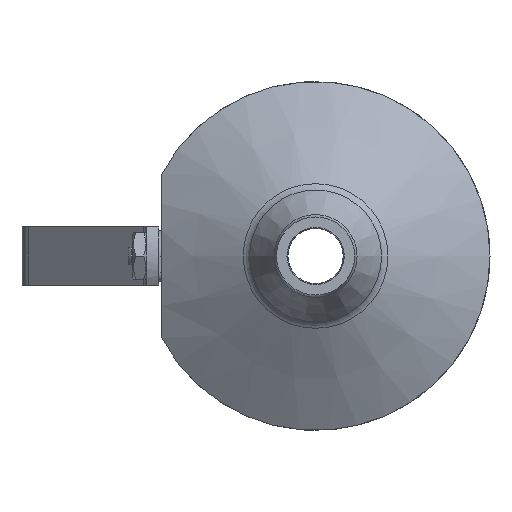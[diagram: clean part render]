
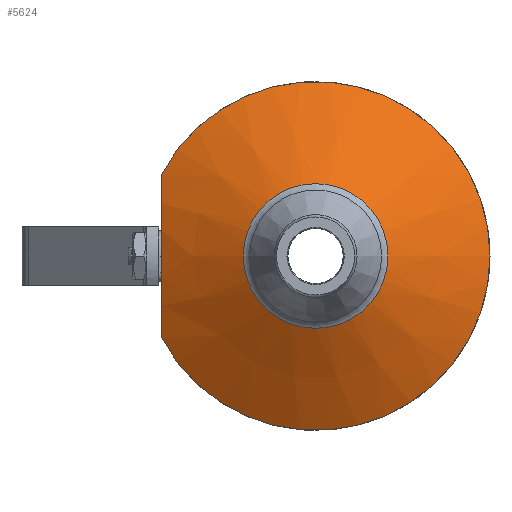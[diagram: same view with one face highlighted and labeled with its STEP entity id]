
A CAD part, left-side view. The second image highlights one B-rep face of the part: STEP entity #5624.
In plain terms, the highlighted conical face has half-angle 60 degrees and reference radius 42.446 mm.
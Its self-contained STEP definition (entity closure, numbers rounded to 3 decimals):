
#5250=CARTESIAN_POINT('',(-25.5,53.,28.125));
#5251=VERTEX_POINT('',#5250);
#5252=CARTESIAN_POINT('',(-25.5,53.,-28.125));
#5253=VERTEX_POINT('',#5252);
#5254=CARTESIAN_POINT('',(-25.5,53.,28.125));
#5255=CARTESIAN_POINT('',(-33.111,53.,0.0));
#5256=CARTESIAN_POINT('',(-25.5,53.,-28.125));
#5264=(BOUNDED_CURVE()B_SPLINE_CURVE(2,(#5254,#5255,#5256),.UNSPECIFIED.,.F.,.U.)B_SPLINE_CURVE_WITH_KNOTS((3,3),(0.0,5.683),.UNSPECIFIED.)CURVE()GEOMETRIC_REPRESENTATION_ITEM()RATIONAL_B_SPLINE_CURVE((1.0,1.132,1.0))REPRESENTATION_ITEM(''));
#5265=EDGE_CURVE('',#5251,#5253,#5264,.T.);
#5591=CARTESIAN_POINT('',(-45.769,-24.892,0.0));
#5592=VERTEX_POINT('',#5591);
#5593=CARTESIAN_POINT('',(-45.769,0.0,0.0));
#5594=DIRECTION('',(1.0,0.0,0.0));
#5595=DIRECTION('',(0.0,-1.0,0.0));
#5596=AXIS2_PLACEMENT_3D('',#5593,#5594,#5595);
#5597=CIRCLE('',#5596,24.892);
#5598=EDGE_CURVE('',#5592,#5592,#5597,.T.);
#5606=CARTESIAN_POINT('',(-35.635,0.0,0.0));
#5607=DIRECTION('',(1.0,0.0,0.0));
#5608=DIRECTION('',(0.0,-1.0,0.0));
#5609=AXIS2_PLACEMENT_3D('',#5606,#5607,#5608);
#5610=CONICAL_SURFACE('',#5609,42.446,60.);
#5611=ORIENTED_EDGE('',*,*,#5265,.T.);
#5612=CARTESIAN_POINT('',(-25.5,0.0,0.0));
#5613=DIRECTION('',(1.0,0.0,0.0));
#5614=DIRECTION('',(0.0,-1.0,0.0));
#5615=AXIS2_PLACEMENT_3D('',#5612,#5613,#5614);
#5616=CIRCLE('',#5615,60.);
#5617=EDGE_CURVE('',#5251,#5253,#5616,.T.);
#5618=ORIENTED_EDGE('',*,*,#5617,.F.);
#5619=EDGE_LOOP('',(#5611,#5618));
#5620=FACE_OUTER_BOUND('',#5619,.T.);
#5621=ORIENTED_EDGE('',*,*,#5598,.T.);
#5622=EDGE_LOOP('',(#5621));
#5623=FACE_BOUND('',#5622,.T.);
#5624=ADVANCED_FACE('',(#5620,#5623),#5610,.T.);
